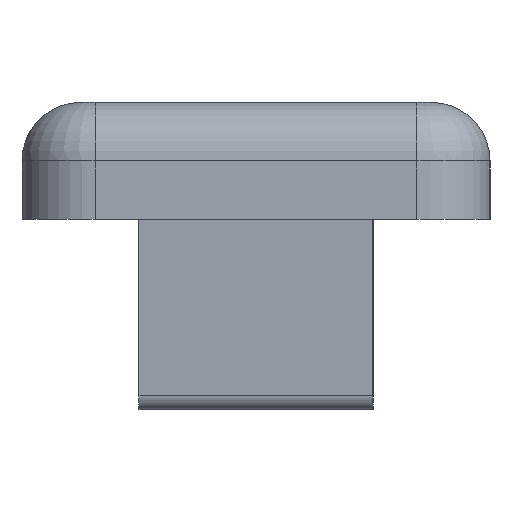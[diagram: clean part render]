
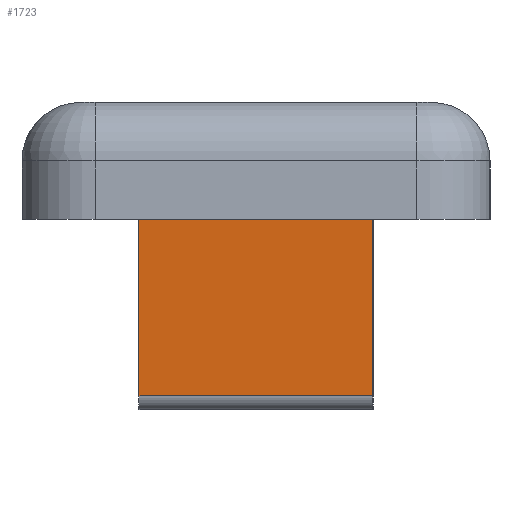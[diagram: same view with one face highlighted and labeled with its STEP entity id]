
A CAD part, left-side view. The second image highlights one B-rep face of the part: STEP entity #1723.
In plain terms, the highlighted planar face has unit normal (-0.999, 0, -0.052).
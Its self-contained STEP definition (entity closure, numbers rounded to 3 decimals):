
#14 = EDGE_LOOP ( 'NONE', ( #697, #1507, #286, #1473 ) ) ;
#97 = CARTESIAN_POINT ( 'NONE',  ( -78.497, -4., -2. ) ) ;
#133 = VERTEX_POINT ( 'NONE', #2050 ) ;
#193 = LINE ( 'NONE', #2110, #1725 ) ;
#286 = ORIENTED_EDGE ( 'NONE', *, *, #613, .F. ) ;
#307 = DIRECTION ( 'NONE',  ( 0., 1., 0. ) ) ;
#351 = VERTEX_POINT ( 'NONE', #1304 ) ;
#390 = EDGE_CURVE ( 'NONE', #505, #133, #965, .T. ) ;
#459 = DIRECTION ( 'NONE',  ( 0.052, 0., -0.999 ) ) ;
#495 = CARTESIAN_POINT ( 'NONE',  ( -78.076, 4., -10.026 ) ) ;
#505 = VERTEX_POINT ( 'NONE', #1164 ) ;
#522 = CARTESIAN_POINT ( 'NONE',  ( -78.497, 4., -2. ) ) ;
#613 = EDGE_CURVE ( 'NONE', #133, #2027, #193, .T. ) ;
#697 = ORIENTED_EDGE ( 'NONE', *, *, #1412, .T. ) ;
#882 = EDGE_CURVE ( 'NONE', #2027, #351, #2202, .T. ) ;
#945 = PLANE ( 'NONE',  #1063 ) ;
#965 = LINE ( 'NONE', #1981, #1576 ) ;
#1063 = AXIS2_PLACEMENT_3D ( 'NONE', #97, #1087, #1758 ) ;
#1087 = DIRECTION ( 'NONE',  ( 0.999, 0., 0.052 ) ) ;
#1098 = FACE_OUTER_BOUND ( 'NONE', #14, .T. ) ;
#1164 = CARTESIAN_POINT ( 'NONE',  ( -78.392, -4., -4. ) ) ;
#1304 = CARTESIAN_POINT ( 'NONE',  ( -78.392, 4., -4. ) ) ;
#1412 = EDGE_CURVE ( 'NONE', #505, #351, #2155, .T. ) ;
#1451 = DIRECTION ( 'NONE',  ( 0., 1., 0. ) ) ;
#1473 = ORIENTED_EDGE ( 'NONE', *, *, #390, .F. ) ;
#1507 = ORIENTED_EDGE ( 'NONE', *, *, #882, .F. ) ;
#1576 = VECTOR ( 'NONE', #459, 1000. ) ;
#1723 = ADVANCED_FACE ( 'NONE', ( #1098 ), #945, .F. ) ;
#1725 = VECTOR ( 'NONE', #1451, 1000. ) ;
#1754 = VECTOR ( 'NONE', #307, 1000. ) ;
#1758 = DIRECTION ( 'NONE',  ( -0.052, 0., 0.999 ) ) ;
#1857 = VECTOR ( 'NONE', #1867, 1000. ) ;
#1867 = DIRECTION ( 'NONE',  ( -0.052, 0., 0.999 ) ) ;
#1975 = CARTESIAN_POINT ( 'NONE',  ( -78.392, 5.5, -4. ) ) ;
#1981 = CARTESIAN_POINT ( 'NONE',  ( -78.497, -4., -2. ) ) ;
#2027 = VERTEX_POINT ( 'NONE', #495 ) ;
#2050 = CARTESIAN_POINT ( 'NONE',  ( -78.076, -4., -10.026 ) ) ;
#2110 = CARTESIAN_POINT ( 'NONE',  ( -78.076, -4., -10.026 ) ) ;
#2155 = LINE ( 'NONE', #1975, #1754 ) ;
#2202 = LINE ( 'NONE', #522, #1857 ) ;
